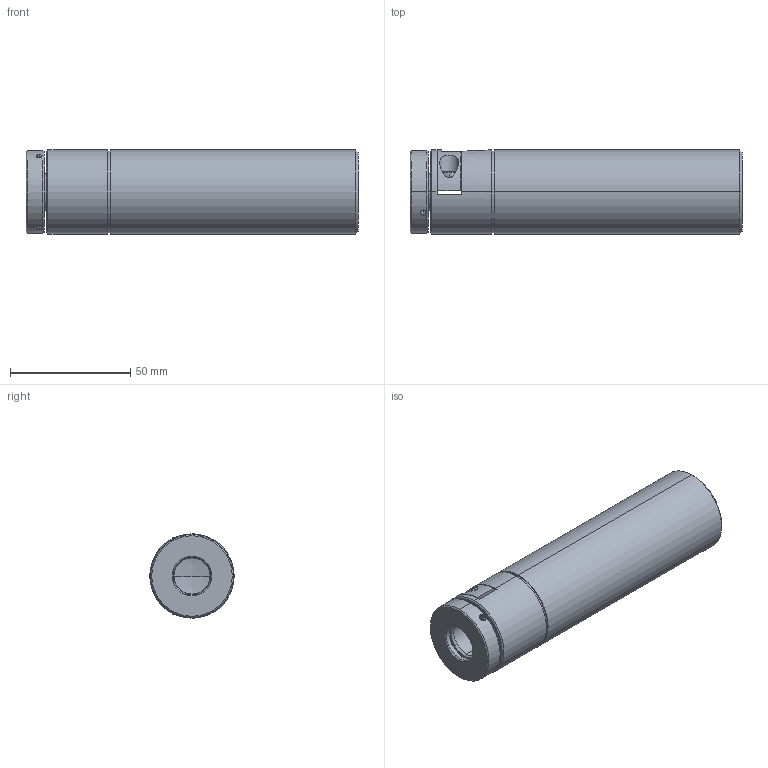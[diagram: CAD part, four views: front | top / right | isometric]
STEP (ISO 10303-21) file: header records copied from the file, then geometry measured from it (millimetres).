
FILE_DESCRIPTION (( 'STEP AP214' ), '1' );
FILE_NAME ('PT-P00616.STEP', '2018-09-19T09:27:16', ( '' ), ( '' ), 'SwSTEP 2.0', 'SolidWorks 2014', '' );
FILE_SCHEMA (( 'AUTOMOTIVE_DESIGN' ));
Length unit declared in the file: millimetre
Products named in the file (1): PT-P00616
Bounding box: 138 x 35 x 35 mm (x, y, z)
Surface area: 23827.3 mm2 (no closed solid volume)
Topology: 0 solids, 15 shells, 181 faces, 573 edges, 394 vertices
Faces by surface type: plane 80, cylinder 60, cone 30, torus 6, bspline 3, sphere 2
Entity records: 8791 total; most frequent: CARTESIAN_POINT 1833, DIRECTION 1052, ORIENTED_EDGE 924, EDGE_CURVE 567, AXIS2_PLACEMENT_3D 402, VERTEX_POINT 394, VECTOR 248, LINE 248
